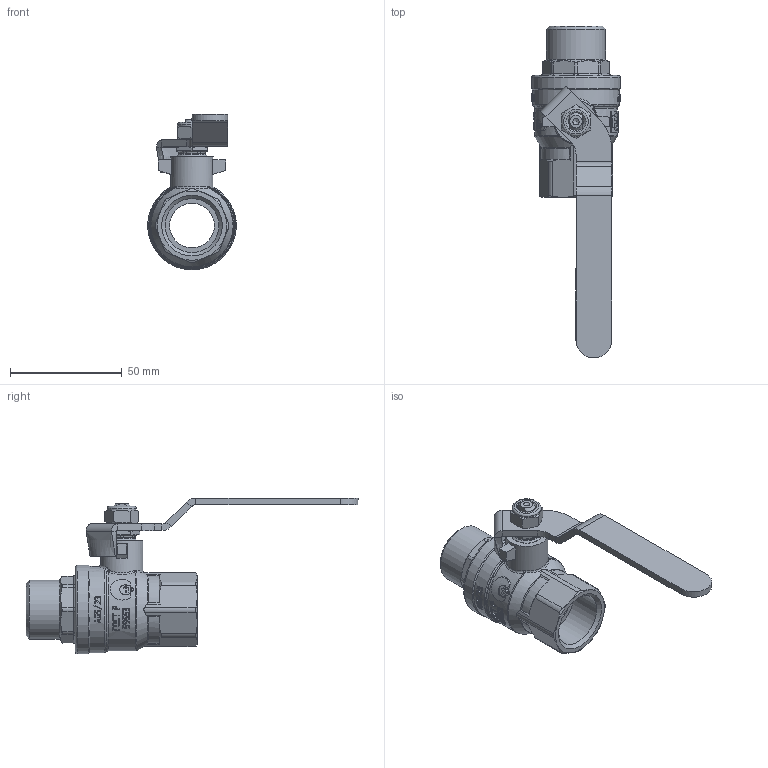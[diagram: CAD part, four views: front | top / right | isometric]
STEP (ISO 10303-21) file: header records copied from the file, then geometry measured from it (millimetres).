
FILE_DESCRIPTION(('STEP AP203'), '1');
FILE_NAME('VT.415.N.05', '2026-04-29T12:11:08', ('User'), ('Vesta'), 'C3D Converter', 'C3D Toolkit', '');
FILE_SCHEMA(('CONFIG_CONTROL_DESIGN'));
Length unit declared in the file: millimetre
Products named in the file (1): ВР.491816.003.000-01
Bounding box: 39.6 x 148.58 x 69.69 mm (x, y, z)
Volume: 51225.8 mm3; surface area: 21317.1 mm2
Topology: 1 solids, 3 shells, 1083 faces, 2944 edges, 1923 vertices
Faces by surface type: extrusion 496, plane 367, cylinder 112, cone 52, torus 33, bspline 23
Full cylindrical faces by diameter (mm): 0.816 x1, 4 x1, 12.1 x1, 13 x1, 14 x1, 19 x1, 20 x3, 20.5 x1, 21 x2, 24.118 x1, 26.441 x1, 38.6 x1, 39.6 x1
Entity records: 50085 total; most frequent: CARTESIAN_POINT 25295, ORIENTED_EDGE 5818, DIRECTION 3668, EDGE_CURVE 2909, VERTEX_POINT 1922, B_SPLINE_CURVE_WITH_KNOTS 1690, VECTOR 1640, EDGE_LOOP 1175
